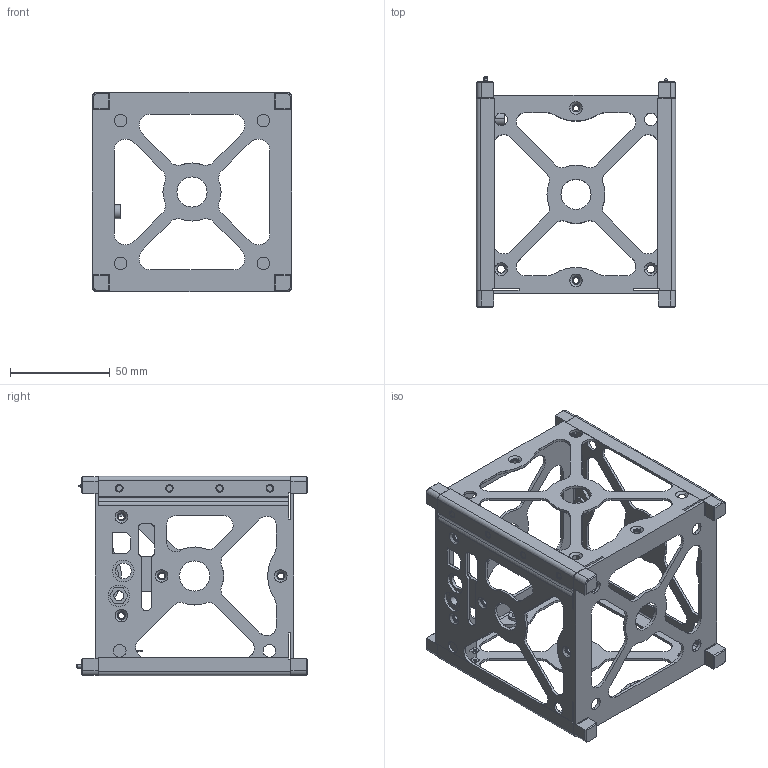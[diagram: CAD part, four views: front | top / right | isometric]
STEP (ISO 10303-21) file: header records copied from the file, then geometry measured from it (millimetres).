
FILE_DESCRIPTION (( 'STEP AP214' ), '1' );
FILE_NAME ('703-00289-E0 1U Chassis Skeleton.STEP', '2017-11-13T19:57:45', ( '' ), ( '' ), 'SwSTEP 2.0', 'SolidWorks 2014', '' );
FILE_SCHEMA (( 'AUTOMOTIVE_DESIGN' ));
Length unit declared in the file: inch
Products named in the file (2): 703-00289-E0 1U Chassis Skeleton
Bounding box: 100.06 x 116.05 x 100.05 mm (x, y, z)
Volume: 54150.5 mm3; surface area: 82781.3 mm2
Topology: 1 solids, 75 shells, 2407 faces, 5885 edges, 3545 vertices
Faces by surface type: cone 812, cylinder 778, plane 763, torus 22, bspline 16, sphere 16
Entity records: 73656 total; most frequent: DIRECTION 13121, CARTESIAN_POINT 12573, ORIENTED_EDGE 11762, EDGE_CURVE 5881, AXIS2_PLACEMENT_3D 4941, VERTEX_POINT 3545, VECTOR 3239, LINE 3239
